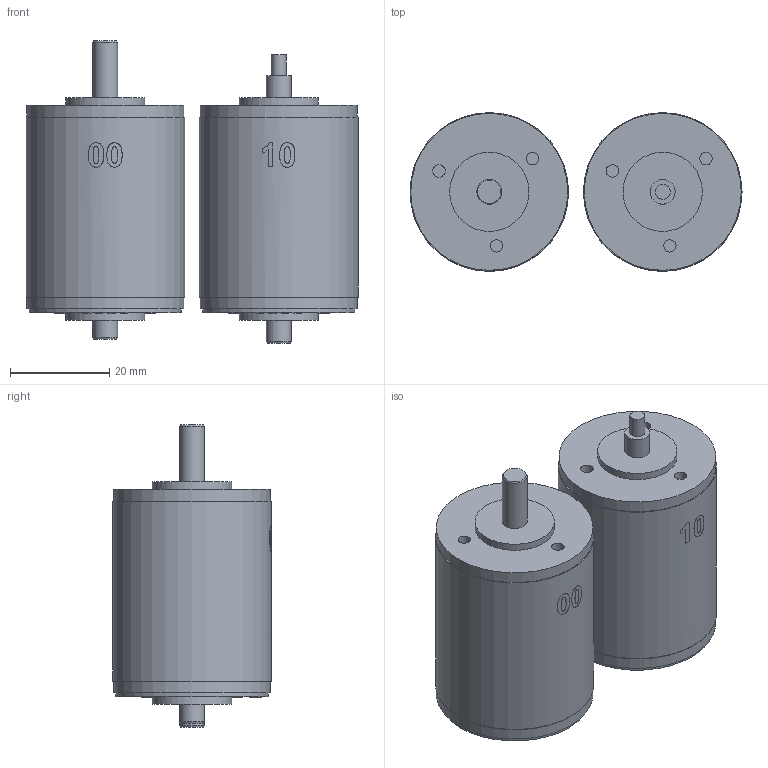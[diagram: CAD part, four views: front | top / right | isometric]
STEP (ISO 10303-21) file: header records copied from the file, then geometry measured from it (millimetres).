
FILE_DESCRIPTION(/* description */ (''),/* implementation_level */ '2;1');
FILE_NAME(/* name */ 'AM3248_00+10.stp',/* time_stamp */ '2021-11-10T10:42:58+01:00',/* author */ ('DR. FRITZ FAULHABER GmbH & Co. KG'),/* organization */ ('DR. FRITZ FAULHABER GmbH & Co. KG'),/* preprocessor_version */ 'ST-DEVELOPER v16.7',/* originating_system */ 'SIEMENS PLM Software NX 1919',/* authorisation */ '');
FILE_SCHEMA (('AUTOMOTIVE_DESIGN { 1 0 10303 214 3 1 1 1 }'));
Length unit declared in the file: millimetre
Products named in the file (1): H99999999-A-Alle Motoren
Bounding box: 67 x 32 x 61 mm (x, y, z)
Volume: 68690.3 mm3; surface area: 12847.2 mm2
Topology: 2 solids, 2 shells, 249 faces, 533 edges, 358 vertices
Faces by surface type: plane 172, cylinder 48, extrusion 18, bspline 8, cone 3
Full cylindrical faces by diameter (mm): 1.25 x4, 2 x12, 2.5 x6, 3 x1, 5 x4, 16 x4, 16.2 x2, 30.7 x2, 31.7 x4, 32 x2
Entity records: 8489 total; most frequent: CARTESIAN_POINT 3477, ORIENTED_EDGE 944, DIRECTION 828, EDGE_CURVE 472, EDGE_LOOP 369, VERTEX_POINT 347, AXIS2_PLACEMENT_3D 311, ADVANCED_FACE 249
